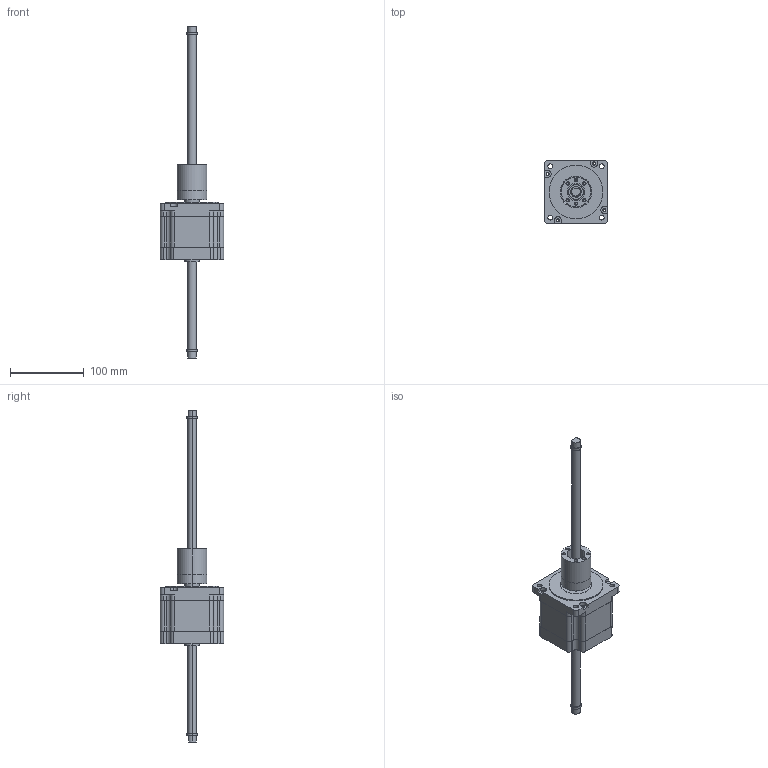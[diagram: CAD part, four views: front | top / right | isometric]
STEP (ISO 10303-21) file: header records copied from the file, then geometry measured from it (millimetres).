
FILE_DESCRIPTION (( 'STEP AP203' ), '1' );
FILE_NAME ('86幗紩佪裝嫗籵.STEP', '2014-09-12T06:07:26', ( 'user' ), ( 'pxctfys' ), 'SwSTEP 2.0', 'SolidWorks 2012', '' );
FILE_SCHEMA (( 'CONFIG_CONTROL_DESIGN' ));
Length unit declared in the file: millimetre
Products named in the file (1): 86幗紩佪裝嫗籵
Bounding box: 85.9 x 85.9 x 450 mm (x, y, z)
Surface area: 91294.3 mm2 (no closed solid volume)
Topology: 0 solids, 13 shells, 198 faces, 1106 edges, 924 vertices
Faces by surface type: cylinder 113, plane 81, cone 4
Entity records: 11384 total; most frequent: CARTESIAN_POINT 2268, DIRECTION 2057, ORIENTED_EDGE 1598, EDGE_CURVE 1106, VERTEX_POINT 924, AXIS2_PLACEMENT_3D 753, CIRCLE 554, VECTOR 551
